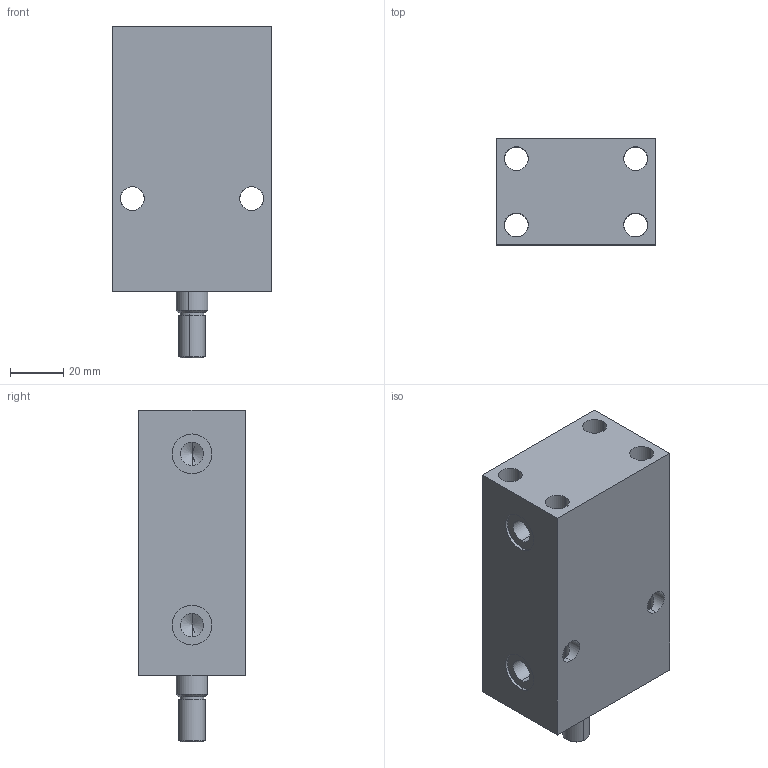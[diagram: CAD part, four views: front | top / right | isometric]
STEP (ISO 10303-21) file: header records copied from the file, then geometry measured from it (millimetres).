
FILE_DESCRIPTION (( 'STEP AP203' ), '1' );
FILE_NAME ('Block cylinder B01C-050M.STEP', '2022-07-09T17:55:13', ( '' ), ( '' ), 'SwSTEP 2.0', 'SolidWorks 2017', '' );
FILE_SCHEMA (( 'CONFIG_CONTROL_DESIGN' ));
Length unit declared in the file: millimetre
Products named in the file (3): Block cylinder B01C-050M; Body_050M; Piston_050M
Assembly tree (2 placements, depth 2):
  Block cylinder B01C-050M
    Body_050M
    Piston_050M
Bounding box: 60 x 40 x 125 mm (x, y, z)
Volume: 213325.1 mm3; surface area: 42414.9 mm2
Topology: 2 solids, 2 shells, 354 faces, 961 edges, 628 vertices
Faces by surface type: bspline 163, plane 137, cylinder 46, cone 8
Entity records: 17936 total; most frequent: CARTESIAN_POINT 9867, ORIENTED_EDGE 1914, DIRECTION 1055, EDGE_CURVE 957, VERTEX_POINT 628, VECTOR 535, LINE 535, EDGE_LOOP 395
